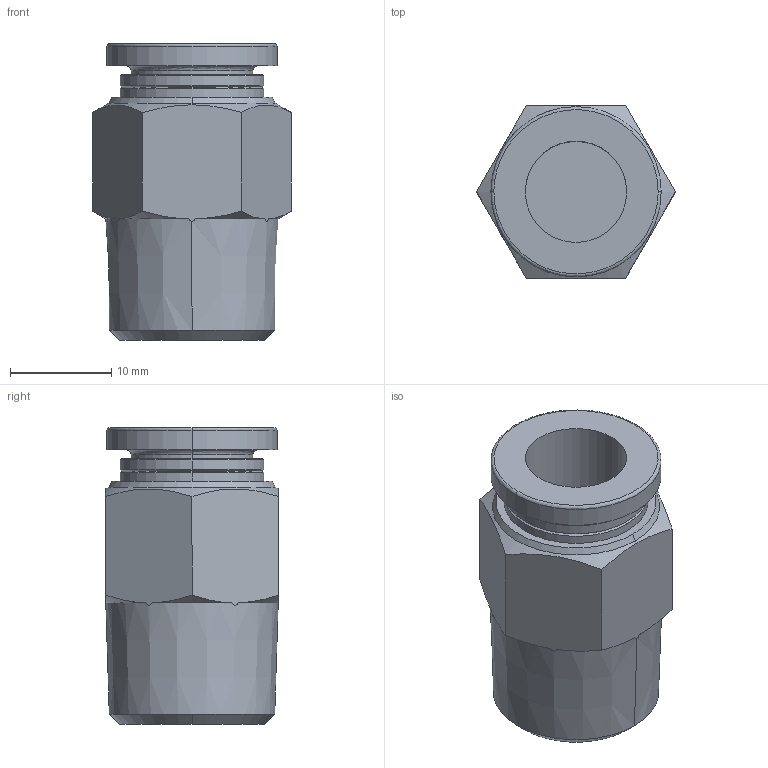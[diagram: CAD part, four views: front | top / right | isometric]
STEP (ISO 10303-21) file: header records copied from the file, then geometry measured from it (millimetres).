
FILE_DESCRIPTION (( 'STEP AP214' ), '1' );
FILE_NAME ('KQ2H10-03AS.STEP', '2023-03-06T10:14:20', ( 'Windows User' ), ( 'P R C' ), 'SwSTEP 2.0', 'SolidWorks 2019', '' );
FILE_SCHEMA (( 'AUTOMOTIVE_DESIGN' ));
Length unit declared in the file: millimetre
Products named in the file (1): KQ2H10-03AS
Bounding box: 19.63 x 17 x 29.3 mm (x, y, z)
Volume: 4859.9 mm3; surface area: 2844.5 mm2
Topology: 1 solids, 1 shells, 48 faces, 116 edges, 74 vertices
Faces by surface type: cone 22, plane 12, cylinder 10, bspline 4
Entity records: 1934 total; most frequent: CARTESIAN_POINT 807, ORIENTED_EDGE 232, DIRECTION 226, EDGE_CURVE 116, AXIS2_PLACEMENT_3D 97, VERTEX_POINT 74, CIRCLE 52, EDGE_LOOP 52
